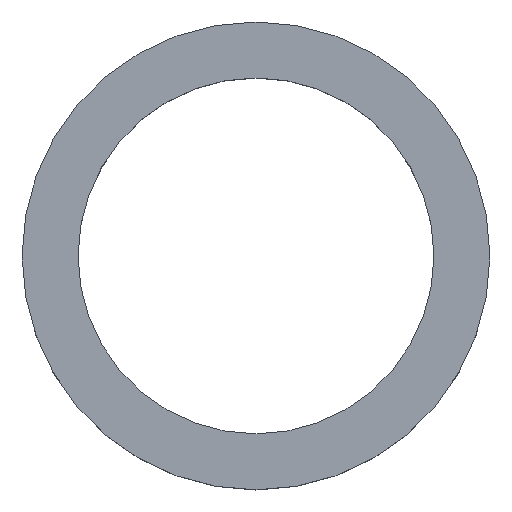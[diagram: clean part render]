
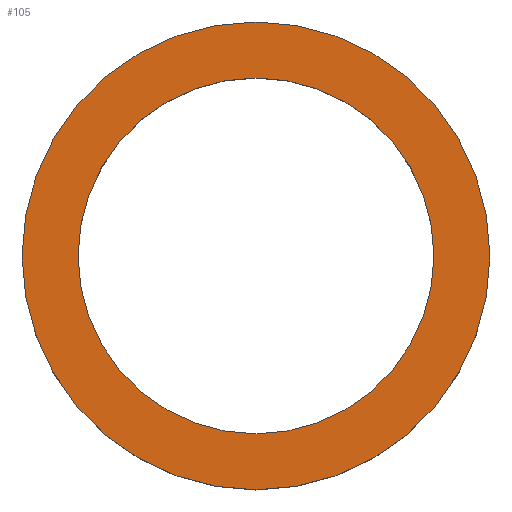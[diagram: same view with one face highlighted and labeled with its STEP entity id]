
A CAD part, top view. The second image highlights one B-rep face of the part: STEP entity #105.
In plain terms, the highlighted planar face has unit normal (0, 0, 1).
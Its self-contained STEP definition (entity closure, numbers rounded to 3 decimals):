
#21 = EDGE_CURVE('',#22,#22,#24,.T.);
#22 = VERTEX_POINT('',#23);
#23 = CARTESIAN_POINT('',(33.,0.,12.));
#24 = SURFACE_CURVE('',#25,(#30,#42),.PCURVE_S1.);
#25 = CIRCLE('',#26,33.);
#26 = AXIS2_PLACEMENT_3D('',#27,#28,#29);
#27 = CARTESIAN_POINT('',(0.,0.,12.));
#28 = DIRECTION('',(0.,0.,1.));
#29 = DIRECTION('',(1.,0.,-0.));
#30 = PCURVE('',#31,#36);
#31 = CYLINDRICAL_SURFACE('',#32,33.);
#32 = AXIS2_PLACEMENT_3D('',#33,#34,#35);
#33 = CARTESIAN_POINT('',(0.,0.,0.));
#34 = DIRECTION('',(0.,0.,1.));
#35 = DIRECTION('',(1.,0.,-0.));
#36 = DEFINITIONAL_REPRESENTATION('',(#37),#41);
#37 = LINE('',#38,#39);
#38 = CARTESIAN_POINT('',(0.,12.));
#39 = VECTOR('',#40,1.);
#40 = DIRECTION('',(1.,0.));
#41 = ( GEOMETRIC_REPRESENTATION_CONTEXT(2) 
PARAMETRIC_REPRESENTATION_CONTEXT() REPRESENTATION_CONTEXT('2D SPACE',''
  ) );
#42 = PCURVE('',#43,#48);
#43 = PLANE('',#44);
#44 = AXIS2_PLACEMENT_3D('',#45,#46,#47);
#45 = CARTESIAN_POINT('',(0.,0.,12.));
#46 = DIRECTION('',(0.,0.,1.));
#47 = DIRECTION('',(1.,0.,-0.));
#48 = DEFINITIONAL_REPRESENTATION('',(#49),#53);
#49 = CIRCLE('',#50,33.);
#50 = AXIS2_PLACEMENT_2D('',#51,#52);
#51 = CARTESIAN_POINT('',(0.,0.));
#52 = DIRECTION('',(1.,0.));
#53 = ( GEOMETRIC_REPRESENTATION_CONTEXT(2) 
PARAMETRIC_REPRESENTATION_CONTEXT() REPRESENTATION_CONTEXT('2D SPACE',''
  ) );
#105 = ADVANCED_FACE('',(#106,#109),#43,.T.);
#106 = FACE_BOUND('',#107,.T.);
#107 = EDGE_LOOP('',(#108));
#108 = ORIENTED_EDGE('',*,*,#21,.T.);
#109 = FACE_BOUND('',#110,.T.);
#110 = EDGE_LOOP('',(#111));
#111 = ORIENTED_EDGE('',*,*,#112,.F.);
#112 = EDGE_CURVE('',#113,#113,#115,.T.);
#113 = VERTEX_POINT('',#114);
#114 = CARTESIAN_POINT('',(25.1,0.,12.));
#115 = SURFACE_CURVE('',#116,(#121,#128),.PCURVE_S1.);
#116 = CIRCLE('',#117,25.1);
#117 = AXIS2_PLACEMENT_3D('',#118,#119,#120);
#118 = CARTESIAN_POINT('',(0.,0.,12.));
#119 = DIRECTION('',(0.,0.,1.));
#120 = DIRECTION('',(1.,0.,-0.));
#121 = PCURVE('',#43,#122);
#122 = DEFINITIONAL_REPRESENTATION('',(#123),#127);
#123 = CIRCLE('',#124,25.1);
#124 = AXIS2_PLACEMENT_2D('',#125,#126);
#125 = CARTESIAN_POINT('',(0.,0.));
#126 = DIRECTION('',(1.,0.));
#127 = ( GEOMETRIC_REPRESENTATION_CONTEXT(2) 
PARAMETRIC_REPRESENTATION_CONTEXT() REPRESENTATION_CONTEXT('2D SPACE',''
  ) );
#128 = PCURVE('',#129,#134);
#129 = CYLINDRICAL_SURFACE('',#130,25.1);
#130 = AXIS2_PLACEMENT_3D('',#131,#132,#133);
#131 = CARTESIAN_POINT('',(0.,0.,-1.));
#132 = DIRECTION('',(0.,0.,1.));
#133 = DIRECTION('',(1.,0.,-0.));
#134 = DEFINITIONAL_REPRESENTATION('',(#135),#139);
#135 = LINE('',#136,#137);
#136 = CARTESIAN_POINT('',(0.,13.));
#137 = VECTOR('',#138,1.);
#138 = DIRECTION('',(1.,0.));
#139 = ( GEOMETRIC_REPRESENTATION_CONTEXT(2) 
PARAMETRIC_REPRESENTATION_CONTEXT() REPRESENTATION_CONTEXT('2D SPACE',''
  ) );
